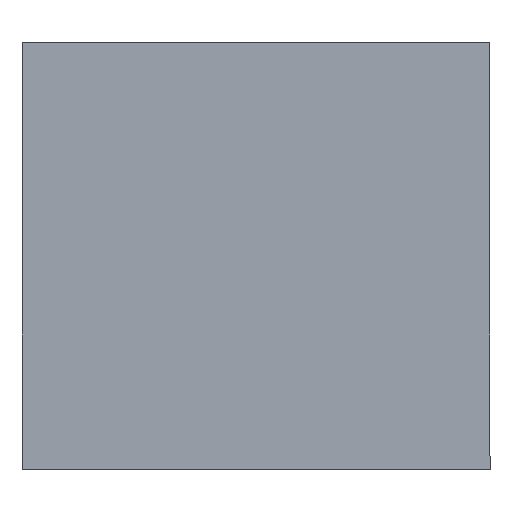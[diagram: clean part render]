
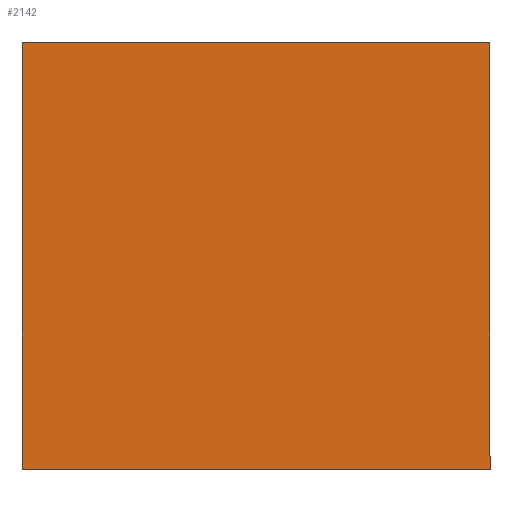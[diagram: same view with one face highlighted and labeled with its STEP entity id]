
A CAD part, top view. The second image highlights one B-rep face of the part: STEP entity #2142.
In plain terms, the highlighted planar face has unit normal (0, 0, 1).
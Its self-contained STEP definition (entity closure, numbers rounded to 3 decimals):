
#468=ORIENTED_EDGE('',*,*,#820,.F.);
#469=ORIENTED_EDGE('',*,*,#853,.F.);
#470=ORIENTED_EDGE('',*,*,#828,.F.);
#471=ORIENTED_EDGE('',*,*,#870,.F.);
#820=EDGE_CURVE('',#1058,#1059,#1304,.T.);
#828=EDGE_CURVE('',#1066,#1067,#1312,.T.);
#853=EDGE_CURVE('',#1067,#1058,#1336,.T.);
#870=EDGE_CURVE('',#1059,#1066,#1350,.T.);
#1058=VERTEX_POINT('',#3299);
#1059=VERTEX_POINT('',#3301);
#1066=VERTEX_POINT('',#3316);
#1067=VERTEX_POINT('',#3318);
#1304=LINE('',#3300,#1578);
#1312=LINE('',#3317,#1586);
#1336=LINE('',#3369,#1610);
#1350=LINE('',#3399,#1624);
#1578=VECTOR('',#2703,1000.);
#1586=VECTOR('',#2713,1000.);
#1610=VECTOR('',#2745,1000.);
#1624=VECTOR('',#2773,1000.);
#1781=EDGE_LOOP('',(#468,#469,#470,#471));
#1919=FACE_BOUND('',#1781,.T.);
#2032=PLANE('',#2342);
#2142=ADVANCED_FACE('',(#1919),#2032,.F.);
#2342=AXIS2_PLACEMENT_3D('',#3400,#2774,#2775);
#2703=DIRECTION('',(0.,1.,0.));
#2713=DIRECTION('',(0.,-1.,0.));
#2745=DIRECTION('',(-1.,0.,0.));
#2773=DIRECTION('',(1.,0.,0.));
#2774=DIRECTION('',(0.,0.,-1.));
#2775=DIRECTION('',(-1.,0.,0.));
#3299=CARTESIAN_POINT('',(-14.25,-13.,6.));
#3300=CARTESIAN_POINT('',(-14.25,-13.,6.));
#3301=CARTESIAN_POINT('',(-14.25,13.,6.));
#3316=CARTESIAN_POINT('',(14.25,13.,6.));
#3317=CARTESIAN_POINT('',(14.25,-13.,6.));
#3318=CARTESIAN_POINT('',(14.25,-13.,6.));
#3369=CARTESIAN_POINT('',(-14.25,-13.,6.));
#3399=CARTESIAN_POINT('',(-14.25,13.,6.));
#3400=CARTESIAN_POINT('',(0.,0.,6.));
